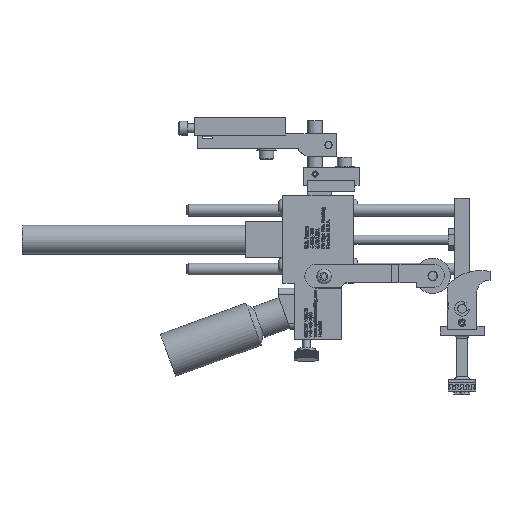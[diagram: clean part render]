
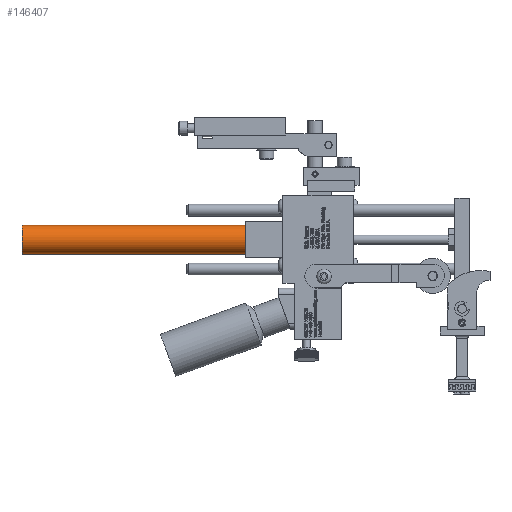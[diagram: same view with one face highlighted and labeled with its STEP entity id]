
A CAD part, top view. The second image highlights one B-rep face of the part: STEP entity #146407.
In plain terms, the highlighted cylindrical face has radius 7.747 mm (diameter 15.494 mm), a full revolution.
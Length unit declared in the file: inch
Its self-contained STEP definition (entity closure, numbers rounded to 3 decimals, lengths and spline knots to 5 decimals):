
#146380=CARTESIAN_POINT('',(0.2202,0.36387,0.375));
#146381=DIRECTION('',(1.0,0.,0.0));
#146382=DIRECTION('',(0.0,0.0,1.0));
#146383=AXIS2_PLACEMENT_3D('',#146380,#146381,#146382);
#146384=CYLINDRICAL_SURFACE('',#146383,0.305);
#146385=CARTESIAN_POINT('',(4.9702,0.36387,0.07));
#146386=VERTEX_POINT('',#146385);
#146387=CARTESIAN_POINT('',(4.9702,0.36387,0.375));
#146388=DIRECTION('',(-1.0,0.0,0.0));
#146389=DIRECTION('',(0.0,0.0,1.0));
#146390=AXIS2_PLACEMENT_3D('',#146387,#146388,#146389);
#146391=CIRCLE('',#146390,0.305);
#146392=EDGE_CURVE('',#146386,#146386,#146391,.T.);
#146393=ORIENTED_EDGE('',*,*,#146392,.T.);
#146394=EDGE_LOOP('',(#146393));
#146395=FACE_OUTER_BOUND('',#146394,.T.);
#146396=CARTESIAN_POINT('',(0.2202,0.36387,0.07));
#146397=VERTEX_POINT('',#146396);
#146398=CARTESIAN_POINT('',(0.2202,0.36387,0.375));
#146399=DIRECTION('',(-1.0,0.0,0.0));
#146400=DIRECTION('',(0.0,0.0,1.0));
#146401=AXIS2_PLACEMENT_3D('',#146398,#146399,#146400);
#146402=CIRCLE('',#146401,0.305);
#146403=EDGE_CURVE('',#146397,#146397,#146402,.T.);
#146404=ORIENTED_EDGE('',*,*,#146403,.F.);
#146405=EDGE_LOOP('',(#146404));
#146406=FACE_BOUND('',#146405,.T.);
#146407=ADVANCED_FACE('',(#146395,#146406),#146384,.T.);
